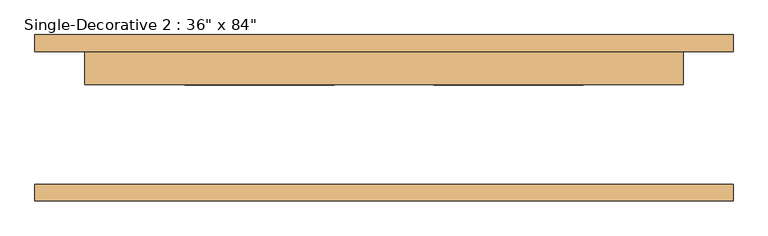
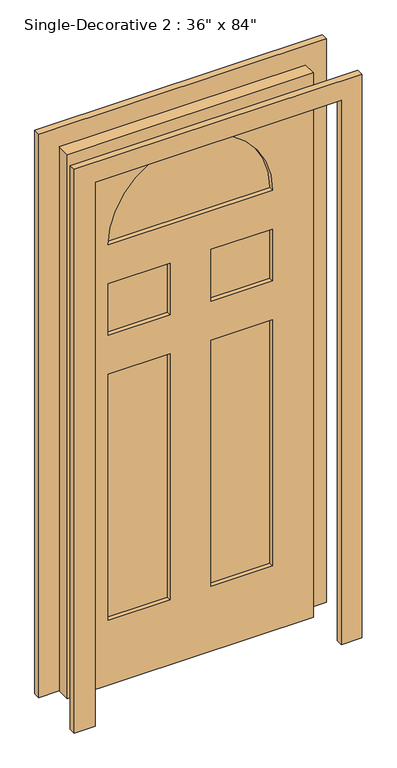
"""IFC4 building model written with IfcOpenShell, lengths in millimetres: door geometry."""

from ifc_helpers import new_model, si_unit, point, frame, frame_2d, origin, place, context, project, spatial, polyline, circle_curve, trimmed, segment, composite_curve, outline, extrude, source, transform, mapped, element, save


def door_f6339938(model_context):
    return source(origin(), model_context, "Body", "SweptSolid", [
        extrude(outline(polyline([(0.0, -457.2), (0.0, 457.2), (2133.6, 457.2), (2133.6, -457.2), (0.0, -457.2)]), holes=[polyline([(254.0, -76.2), (254.0, -304.8), (1219.2, -304.8), (1219.2, -76.2), (254.0, -76.2)]), polyline([(254.0, 304.8), (254.0, 76.2), (1219.2, 76.2), (1219.2, 304.8), (254.0, 304.8)]), polyline([(1371.6, 76.2), (1574.8, 76.2), (1574.8, 304.8), (1371.6, 304.8), (1371.6, 76.2)]), polyline([(1371.6, -304.8), (1574.8, -304.8), (1574.8, -76.2), (1371.6, -76.2), (1371.6, -304.8)]), composite_curve([segment(polyline([(1727.2, 304.8), (1727.2, -304.8)]), True, "CONTINUOUS"), segment(trimmed(circle_curve(frame_2d((1727.2, 0.0)), 304.8), [point((1727.2, -304.8))], [point((1727.2, 304.8))], True, "CARTESIAN"), True, "CONTINUOUS")], self_intersect=False)]), frame((0.0, 50.8, 0.0), z_axis=(0.0, 1.0, 0.0), x_axis=(0.0, 0.0, 1.0)), (0.0, 0.0, 1.0), 50.8),
        extrude(outline(polyline([(0.0, 457.2), (0.0, 533.4), (2209.8, 533.4), (2209.8, -533.4), (0.0, -533.4), (0.0, -457.2), (2133.6, -457.2), (2133.6, 457.2), (0.0, 457.2)])), frame((0.0, -127.0, 0.0), z_axis=(0.0, 1.0, 0.0), x_axis=(0.0, 0.0, 1.0)), (0.0, 0.0, 1.0), 25.4),
        extrude(outline(polyline([(2209.8, -533.4), (0.0, -533.4), (0.0, -457.2), (2133.6, -457.2), (2133.6, 457.2), (0.0, 457.2), (0.0, 533.4), (2209.8, 533.4), (2209.8, -533.4)])), frame((0.0, 101.6, 0.0), z_axis=(0.0, 1.0, 0.0), x_axis=(0.0, 0.0, 1.0)), (0.0, 0.0, 1.0), 25.4),
        extrude(outline(composite_curve([segment(polyline([(1727.2, -304.8), (1727.2, 304.8)]), True, "CONTINUOUS"), segment(trimmed(circle_curve(frame_2d((1727.2, 0.0)), 304.8), [point((1727.2, 304.8))], [point((1727.2, -304.8))], False, "CARTESIAN"), True, "CONTINUOUS")], self_intersect=False)), frame((0.0, 67.7333333, 0.0), z_axis=(0.0, 1.0, 0.0), x_axis=(0.0, 0.0, 1.0)), (0.0, 0.0, 1.0), 16.9333333),
        extrude(outline(polyline([(-304.8, 84.6666667), (-76.2, 84.6666667), (-76.2, 67.7333333), (-304.8, 67.7333333), (-304.8, 84.6666667)])), frame((0.0, 0.0, 254.0), z_axis=(0.0, 0.0, 1.0), x_axis=(1.0, 0.0, 0.0)), (0.0, 0.0, 1.0), 965.2),
        extrude(outline(polyline([(76.2, 84.6666667), (304.8, 84.6666667), (304.8, 67.7333333), (76.2, 67.7333333), (76.2, 84.6666667)])), frame((0.0, 0.0, 254.0), z_axis=(0.0, 0.0, 1.0), x_axis=(1.0, 0.0, 0.0)), (0.0, 0.0, 1.0), 965.2),
        extrude(outline(polyline([(76.2, 84.6666667), (304.8, 84.6666667), (304.8, 67.7333333), (76.2, 67.7333333), (76.2, 84.6666667)])), frame((0.0, 0.0, 1371.6), z_axis=(0.0, 0.0, 1.0), x_axis=(1.0, 0.0, 0.0)), (0.0, 0.0, 1.0), 203.2),
        extrude(outline(polyline([(-304.8, 84.6666667), (-76.2, 84.6666667), (-76.2, 67.7333333), (-304.8, 67.7333333), (-304.8, 84.6666667)])), frame((0.0, 0.0, 1371.6), z_axis=(0.0, 0.0, 1.0), x_axis=(1.0, 0.0, 0.0)), (0.0, 0.0, 1.0), 203.2),
    ])


if __name__ == "__main__":
    model = new_model("IFC4")
    model_context = context("Model", 3, world=origin())
    ifc_project = project(units=[si_unit("LENGTHUNIT", "METRE", prefix="MILLI")], contexts=[model_context])
    site = spatial("IfcSite", under=ifc_project)
    building = spatial("IfcBuilding", under=site)
    placement = place(None, origin())
    door_shape = door_f6339938(model_context)
    element("IfcDoor", 1, ObjectType="Single-Decorative 2 : 36\" x 84\"", at=placement, inside=building, context=model_context, shape_type="MappedRepresentation", body=[
        mapped(door_shape, transform((0.0, 0.0, 0.0), x_axis=(1.0, 0.0, 0.0), y_axis=(0.0, 1.0, 0.0), z_axis=(0.0, 0.0, 1.0))),
    ])
    save(model, "model.ifc")
